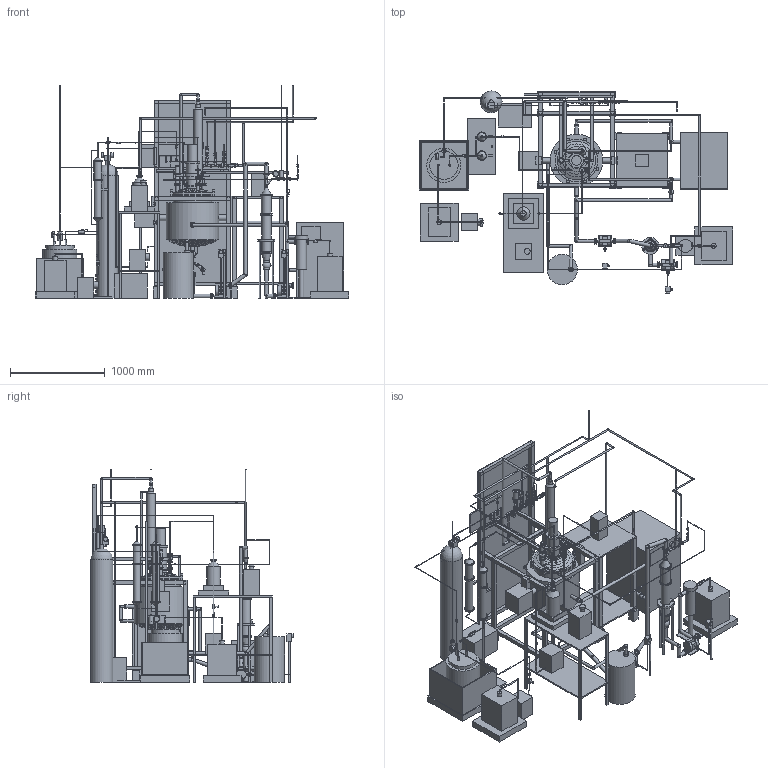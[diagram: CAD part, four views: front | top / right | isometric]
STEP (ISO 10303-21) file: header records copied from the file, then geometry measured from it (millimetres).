
FILE_DESCRIPTION(('Open CASCADE Model'),'2;1');
FILE_NAME('Open CASCADE Shape Model','2026-10-01T13:05:25',('Author'),( 'Open CASCADE'),'Open CASCADE STEP processor 7.9','Open CASCADE 7.9' ,'Unknown');
FILE_SCHEMA(('AUTOMOTIVE_DESIGN { 1 0 10303 214 1 1 1 1 }'));
Length unit declared in the file: millimetre
Products named in the file (193): Установка синтеза 
ТЕФКОТ 770; Реактор Wiggens 50 л (R-1); Корпус реактора 
(внутренний сосуд); Рубашка реактора 
(теплоноситель); Крышка реактора; Откидные болты 
крышки, 8 шт.; Штуцер крышки под 
конденсатор, кламп DN25 
(N3 / P1); Штуцер крышки под 
термогильзу, кламп DN25 
(N4 / P2); Штуцер крышки для 
дозирования, кламп DN25 
(N5 / P3); Штуцер крышки 
резервный, кламп DN25 (N1 / 
P4); Штуцер крышки под 
манометр, 8 мм (N2 / T1); Штуцер крышки ввода 
газа, 8 мм (N6 / T2); Штуцер привода 
мешалки DN133 (M); Фонарь (стойка) 
привода мешалки; Мотор мешалки WB400; Мешалка лопастная с 
валом D26; Патрубок рубашки — 
выход 
теплоносителя, 
кламп DN25 (N7); Патрубок рубашки — 
вход теплоносителя, 
кламп DN25 (N8); Цапфы 
опрокидывания 
реактора; Редуктор 
опрокидывания 
реактора; Нижний сливной 
патрубок DN38 (L); Рама реактора и 
тележка управления; Рама-стойка 
реактора Wiggens; Тележка блока 
управления; Блок управления 
реактора; Конденсатор 
змеевиковый (E-1); Переходник кламп K50,5 
-> шлиф (муфта) на 
штуцере P1 под 
конденсатор; Конденсатор 
змеевиковый 
стеклянный, 
комплект Wiggens (E-1); Оливы 
теплоносителя 
конденсатора (вход 
снизу, выход сверху); Переходник шлиф 
(керн) -> кламп K25 на 
верху конденсатора; Гребёнка: шпунт, 
аварийный сброс, 
аргон, вакуум, 
атмосфера; 
коллектор сбросов; Отвод 90° 1/2" на входе 
гребёнки; Рукав PTFE 3/4" K25-K25 от 
верха конденсатора 
на вход гребёнки; Коллектор гребёнки 
1/2" (тройники на 
клампах); Хомуты кламповые 
1/2" коллектора 
гребёнки; Тройник 1/2" ветки 
шпунт-аппарата; Кран шаровой кламп 
1/2" перед 
шпунт-аппаратом (SV-1); Хомут 1/2" над краном 
шпунт-аппарата; Переход кламповый 
1/2" -> 50,5 под 
шпунт-аппарат; Шпунт-аппарат с 
манометром, DN25 — 
рабочий регулятор 
давления (PCV-1) ...
Assembly tree (192 placements, depth 3):
  Установка синтеза 
ТЕФКОТ 770
    Реактор Wiggens 50 л (R-1)
      Корпус реактора 
(внутренний сосуд)
      Рубашка реактора 
(теплоноситель)
      Крышка реактора
      Откидные болты 
крышки, 8 шт.
      Штуцер крышки под 
конденсатор, кламп DN25 
(N3 / P1)
      Штуцер крышки под 
термогильзу, кламп DN25 
(N4 / P2)
      Штуцер крышки для 
дозирования, кламп DN25 
(N5 / P3)
      Штуцер крышки 
резервный, кламп DN25 (N1 / 
P4)
      Штуцер крышки под 
манометр, 8 мм (N2 / T1)
      Штуцер крышки ввода 
газа, 8 мм (N6 / T2)
      Штуцер привода 
мешалки DN133 (M)
      Фонарь (стойка) 
привода мешалки
      Мотор мешалки WB400
      Мешалка лопастная с 
валом D26
      Патрубок рубашки — 
выход 
теплоносителя, 
кламп DN25 (N7)
      Патрубок рубашки — 
вход теплоносителя, 
кламп DN25 (N8)
      Цапфы 
опрокидывания 
реактора
      Редуктор 
опрокидывания 
реактора
      Нижний сливной 
патрубок DN38 (L)
    Рама реактора и 
тележка управления
      Рама-стойка 
реактора Wiggens
      Тележка блока 
управления
      Блок управления 
реактора
    Конденсатор 
змеевиковый (E-1)
      Переходник кламп K50,5 
-> шлиф (муфта) на 
штуцере P1 под 
конденсатор
      Конденсатор 
змеевиковый 
стеклянный, 
комплект Wiggens (E-1)
      Оливы 
теплоносителя 
конденсатора (вход 
снизу, выход сверху)
      Переходник шлиф 
(керн) -> кламп K25 на 
верху конденсатора
    Гребёнка: шпунт, 
аварийный сброс, 
аргон, вакуум, 
атмосфера; 
коллектор сбросов
      Отвод 90° 1/2" на входе 
гребёнки
      Рукав PTFE 3/4" K25-K25 от 
верха конденсатора 
на вход гребёнки
      Коллектор гребёнки 
1/2" (тройники на 
клампах)
      Хомуты кламповые 
1/2" коллектора 
гребёнки
      Тройник 1/2" ветки 
шпунт-аппарата
      Кран шаровой кламп 
1/2" перед 
шпунт-аппаратом (SV-1)
      Хомут 1/2" над краном 
шпунт-аппарата
      Переход кламповый 
1/2" -> 50,5 под 
шпунт-аппарат
      Шпунт-аппарат с 
манометром, DN25 — 
рабочий регулятор 
давления (PCV-1)
      Тройник 1/2" ветки 
аварийного 
обратного клапана
      Кран шаровой кламп 
1/2" под аварийным 
клапаном, всегда 
открыт (SV-2)
      Хомут 1/2" над краном 
аварийного клапана
      Клапан обратный 
пружинный кламп 1/2", 
~0,2 бар — аварийный 
сброс (NRV-1)
      Хомут 1/2" над 
обратным клапаном
      Тройник 1/2" ветки 
вакуума
      Кран шаровой кламп 
1/2" — вакуум (VV-1)
      Хомут 1/2" над краном 
вакуума
      Переходник кламп 
1/2" -> ёлочка под 
вакуумный шланг
      Тройник 1/2" ветки 
аргона
      Кран шаровой кламп 
1/2" — ввод аргона в 
гребёнку (AV-1)
      Хомут 1/2" над краном 
аргона
      Переходник кламп 
1/2" -> резьба G1/2" -> 
трубка 1/4" (ввод 
аргона)
      Кран шаровой кламп 
1/2" на конце 
коллектора — сброс 
на атмосферу, vent (SV-3)
      Хомут 1/2" за краном 
сброса на атмосферу
      Переходник кламп 
1/2" -> ёлочка (сброс 
на атмосферу)
      Шланг сброса на 
атмосферу в вытяжку
      Уголки и консоли 
крепления гребёнки 
к раме
      Коллектор сбросов 
от обратного 
клапана NRV-1 в вытяжку
    Узлы крышки 
реактора: 
термогильза, 
дозирование, резерв, 
манометр, ввод газа
Bounding box: 3310 x 2135 x 2255.25 mm (x, y, z)
Volume: 811507759.7 mm3; surface area: 32905746.6 mm2
Topology: 747 solids, 747 shells, 2351 faces, 3300 edges, 2184 vertices
Faces by surface type: plane 1651, cylinder 507, sphere 130, cone 63
Full cylindrical faces by diameter (mm): 6 x23, 6.35 x58, 8 x45, 10 x5, 10.2 x2, 11 x6, 11.5 x7, 12 x9, 13.2 x1, 13.7 x4, 13.8 x1, 14 x7, 16 x25, 17 x6, 18 x1, 18.4 x1, 19 x24, 20 x7, 20.4 x1, 20.9 x1, 21.85 x10, 22 x6, 24 x6, 25 x28, 25.4 x2, 26 x1, 28 x1, 30 x20, 32 x5, 32.3 x1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
Entity records: 92562 total; most frequent: DIRECTION 14878, CARTESIAN_POINT 13332, LINE 6574, VECTOR 6574, ORIENTED_EDGE 5812, PCURVE 5812, DEFINITIONAL_REPRESENTATION 5812, AXIS2_PLACEMENT_3D 3632
